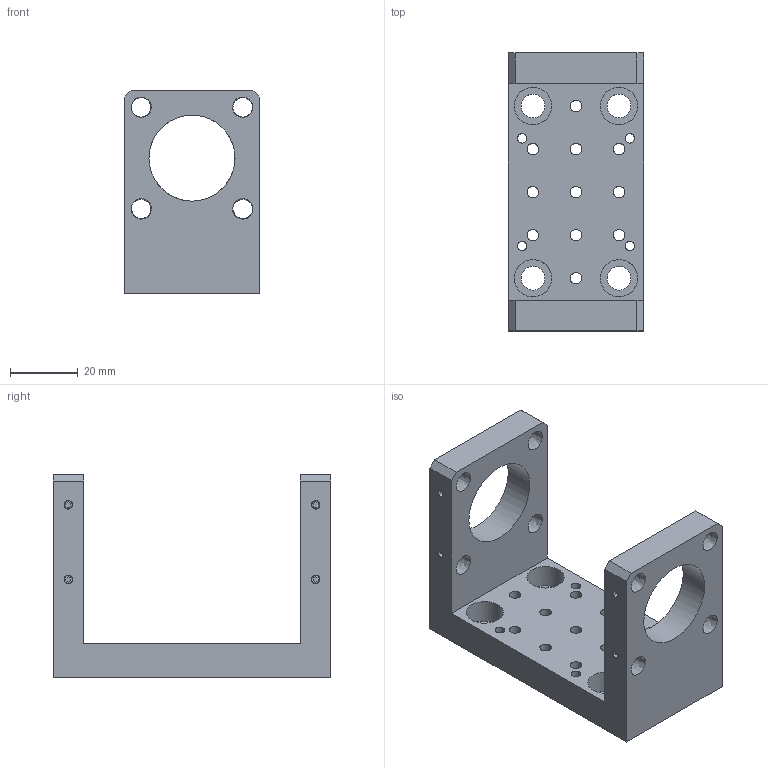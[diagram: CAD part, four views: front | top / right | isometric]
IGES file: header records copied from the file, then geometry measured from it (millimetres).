
Global section: file name: C30-UPF-L82UU; native system: Autodesk Inventor 2018; preprocessor: unknown; author: e.nonaka; date: 20180820.134246; units: millimetre
Bounding box: 40 x 82 x 60 mm (x, y, z)
Volume: 52896.4 mm3; surface area: 21795.7 mm2
Topology: 1 solids, 1 shells, 163 faces, 455 edges, 318 vertices
Faces by surface type: bspline 163
